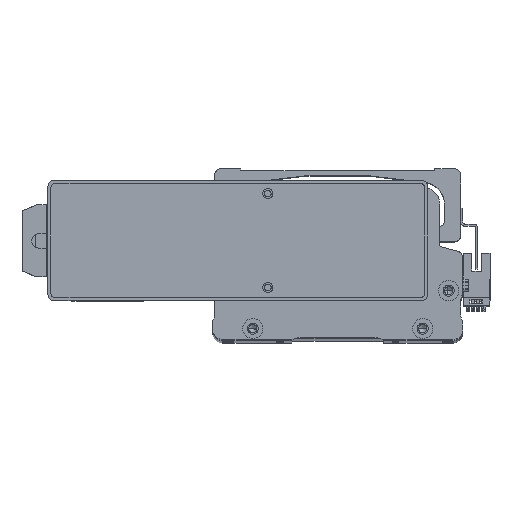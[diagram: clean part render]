
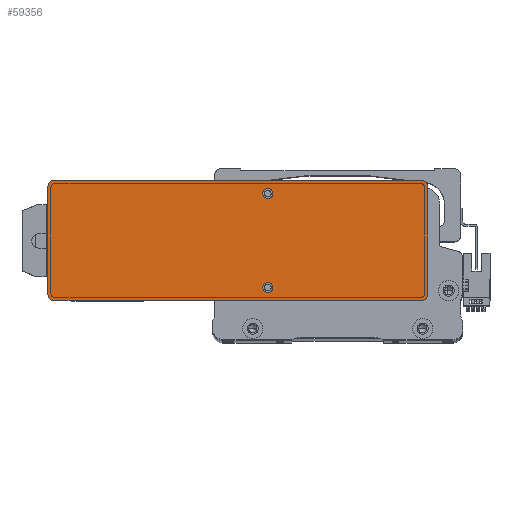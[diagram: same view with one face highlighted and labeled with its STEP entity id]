
A CAD part, top view. The second image highlights one B-rep face of the part: STEP entity #59356.
In plain terms, the highlighted planar face has unit normal (0, 0, 1) as drawn and (0, 0, -1) by its records, which use the part's own axes.
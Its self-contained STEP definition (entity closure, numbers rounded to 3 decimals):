
#429 = CARTESIAN_POINT ( 'NONE',  ( -15., 23.5, 0. ) ) ;
#1752 = AXIS2_PLACEMENT_3D ( 'NONE', #7303, #50166, #13496 ) ;
#2180 = VERTEX_POINT ( 'NONE', #21184 ) ;
#2582 = EDGE_CURVE ( 'NONE', #16229, #37938, #65734, .T. ) ;
#4451 = CARTESIAN_POINT ( 'NONE',  ( -17.5, -23.5, 0. ) ) ;
#4680 = DIRECTION ( 'NONE',  ( -1., 0., 0. ) ) ;
#5770 = DIRECTION ( 'NONE',  ( 1., 0., 0. ) ) ;
#6638 = DIRECTION ( 'NONE',  ( -1., 0., 0. ) ) ;
#7303 = CARTESIAN_POINT ( 'NONE',  ( -15., -23.5, 0. ) ) ;
#8822 = CARTESIAN_POINT ( 'NONE',  ( -15., 23.5, 0. ) ) ;
#9329 = FACE_BOUND ( 'NONE', #45843, .T. ) ;
#10024 = CIRCLE ( 'NONE', #67759, 2.5 ) ;
#10637 = ORIENTED_EDGE ( 'NONE', *, *, #2582, .F. ) ;
#11213 = AXIS2_PLACEMENT_3D ( 'NONE', #429, #43296, #6638 ) ;
#11800 = VECTOR ( 'NONE', #12594, 1000. ) ;
#12594 = DIRECTION ( 'NONE',  ( 1., 0., 0. ) ) ;
#12910 = AXIS2_PLACEMENT_3D ( 'NONE', #59677, #23131, #65813 ) ;
#13496 = DIRECTION ( 'NONE',  ( -1., 0., 0. ) ) ;
#13497 = LINE ( 'NONE', #54673, #29778 ) ;
#14343 = LINE ( 'NONE', #53406, #44977 ) ;
#14641 = ORIENTED_EDGE ( 'NONE', *, *, #54497, .F. ) ;
#15007 = DIRECTION ( 'NONE',  ( -1., 0., 0. ) ) ;
#16229 = VERTEX_POINT ( 'NONE', #40558 ) ;
#16615 = ORIENTED_EDGE ( 'NONE', *, *, #35330, .F. ) ;
#17841 = ORIENTED_EDGE ( 'NONE', *, *, #27391, .T. ) ;
#18080 = DIRECTION ( 'NONE',  ( 0., 1., 0. ) ) ;
#18769 = CARTESIAN_POINT ( 'NONE',  ( 92., 30., 0. ) ) ;
#18951 = ORIENTED_EDGE ( 'NONE', *, *, #58090, .F. ) ;
#20586 = CARTESIAN_POINT ( 'NONE',  ( -95., 27., 0. ) ) ;
#20751 = EDGE_CURVE ( 'NONE', #2180, #50854, #36554, .T. ) ;
#20913 = CARTESIAN_POINT ( 'NONE',  ( -92., 30., 0. ) ) ;
#21184 = CARTESIAN_POINT ( 'NONE',  ( -92., -30., 0. ) ) ;
#22489 = EDGE_CURVE ( 'NONE', #55104, #50854, #67085, .T. ) ;
#23131 = DIRECTION ( 'NONE',  ( 0., 0., -1. ) ) ;
#24219 = EDGE_CURVE ( 'NONE', #55104, #56156, #52667, .T. ) ;
#24927 = CARTESIAN_POINT ( 'NONE',  ( 95., -30., 0. ) ) ;
#25629 = FACE_OUTER_BOUND ( 'NONE', #39973, .T. ) ;
#25821 = AXIS2_PLACEMENT_3D ( 'NONE', #62499, #25942, #68619 ) ;
#25942 = DIRECTION ( 'NONE',  ( 0., 0., -1. ) ) ;
#26539 = AXIS2_PLACEMENT_3D ( 'NONE', #35965, #78608, #42080 ) ;
#27391 = EDGE_CURVE ( 'NONE', #78038, #35170, #76850, .T. ) ;
#28105 = ORIENTED_EDGE ( 'NONE', *, *, #52811, .T. ) ;
#29394 = VERTEX_POINT ( 'NONE', #4451 ) ;
#29550 = EDGE_LOOP ( 'NONE', ( #45559, #74360 ) ) ;
#29778 = VECTOR ( 'NONE', #18080, 1000. ) ;
#30040 = LINE ( 'NONE', #24927, #11800 ) ;
#31595 = CARTESIAN_POINT ( 'NONE',  ( 92., 27., 0. ) ) ;
#32264 = CARTESIAN_POINT ( 'NONE',  ( -12.5, -23.5, 0. ) ) ;
#32615 = CIRCLE ( 'NONE', #26539, 2.5 ) ;
#33960 = DIRECTION ( 'NONE',  ( 0., 0., 1. ) ) ;
#34538 = AXIS2_PLACEMENT_3D ( 'NONE', #58716, #33960, #64818 ) ;
#35170 = VERTEX_POINT ( 'NONE', #39579 ) ;
#35330 = EDGE_CURVE ( 'NONE', #78038, #56156, #14343, .T. ) ;
#35965 = CARTESIAN_POINT ( 'NONE',  ( -15., -23.5, 0. ) ) ;
#36554 = CIRCLE ( 'NONE', #48660, 3. ) ;
#36968 = VERTEX_POINT ( 'NONE', #68465 ) ;
#37757 = ORIENTED_EDGE ( 'NONE', *, *, #20751, .T. ) ;
#37772 = DIRECTION ( 'NONE',  ( 1., 0., 0. ) ) ;
#37938 = VERTEX_POINT ( 'NONE', #48109 ) ;
#39579 = CARTESIAN_POINT ( 'NONE',  ( 95., 27., 0. ) ) ;
#39973 = EDGE_LOOP ( 'NONE', ( #18951, #28105, #14641, #37757, #78787, #66336, #16615, #17841 ) ) ;
#40558 = CARTESIAN_POINT ( 'NONE',  ( -12.5, 23.5, 0. ) ) ;
#42080 = DIRECTION ( 'NONE',  ( -1., 0., 0. ) ) ;
#42453 = DIRECTION ( 'NONE',  ( 0., 0., -1. ) ) ;
#43296 = DIRECTION ( 'NONE',  ( 0., 0., -1. ) ) ;
#44977 = VECTOR ( 'NONE', #4680, 1000. ) ;
#45198 = CARTESIAN_POINT ( 'NONE',  ( 92., -30., 0. ) ) ;
#45559 = ORIENTED_EDGE ( 'NONE', *, *, #55846, .F. ) ;
#45843 = EDGE_LOOP ( 'NONE', ( #59750, #10637 ) ) ;
#47656 = EDGE_CURVE ( 'NONE', #55609, #29394, #56731, .T. ) ;
#48109 = CARTESIAN_POINT ( 'NONE',  ( -17.5, 23.5, 0. ) ) ;
#48660 = AXIS2_PLACEMENT_3D ( 'NONE', #78983, #42453, #5770 ) ;
#49240 = CARTESIAN_POINT ( 'NONE',  ( -95., -30., 0. ) ) ;
#50166 = DIRECTION ( 'NONE',  ( 0., 0., -1. ) ) ;
#50854 = VERTEX_POINT ( 'NONE', #63930 ) ;
#51696 = DIRECTION ( 'NONE',  ( 0., 0., -1. ) ) ;
#52652 = PLANE ( 'NONE',  #34538 ) ;
#52667 = CIRCLE ( 'NONE', #25821, 3. ) ;
#52811 = EDGE_CURVE ( 'NONE', #36968, #53625, #58052, .T. ) ;
#53406 = CARTESIAN_POINT ( 'NONE',  ( 95., 30., 0. ) ) ;
#53625 = VERTEX_POINT ( 'NONE', #45198 ) ;
#54497 = EDGE_CURVE ( 'NONE', #2180, #53625, #30040, .T. ) ;
#54673 = CARTESIAN_POINT ( 'NONE',  ( 95., -30., 0. ) ) ;
#55104 = VERTEX_POINT ( 'NONE', #20586 ) ;
#55609 = VERTEX_POINT ( 'NONE', #32264 ) ;
#55846 = EDGE_CURVE ( 'NONE', #29394, #55609, #32615, .T. ) ;
#56156 = VERTEX_POINT ( 'NONE', #20913 ) ;
#56731 = CIRCLE ( 'NONE', #1752, 2.5 ) ;
#58052 = CIRCLE ( 'NONE', #12910, 3. ) ;
#58090 = EDGE_CURVE ( 'NONE', #36968, #35170, #13497, .T. ) ;
#58716 = CARTESIAN_POINT ( 'NONE',  ( 0., 0., 0. ) ) ;
#59356 = ADVANCED_FACE ( 'NONE', ( #9329, #25629, #72392 ), #52652, .F. ) ;
#59677 = CARTESIAN_POINT ( 'NONE',  ( 92., -27., 0. ) ) ;
#59750 = ORIENTED_EDGE ( 'NONE', *, *, #60310, .F. ) ;
#60310 = EDGE_CURVE ( 'NONE', #37938, #16229, #10024, .T. ) ;
#62499 = CARTESIAN_POINT ( 'NONE',  ( -92., 27., 0. ) ) ;
#62852 = AXIS2_PLACEMENT_3D ( 'NONE', #31595, #74228, #37772 ) ;
#63930 = CARTESIAN_POINT ( 'NONE',  ( -95., -27., 0. ) ) ;
#64818 = DIRECTION ( 'NONE',  ( 1., 0., 0. ) ) ;
#65182 = VECTOR ( 'NONE', #73149, 1000. ) ;
#65734 = CIRCLE ( 'NONE', #11213, 2.5 ) ;
#65813 = DIRECTION ( 'NONE',  ( 1., 0., 0. ) ) ;
#66336 = ORIENTED_EDGE ( 'NONE', *, *, #24219, .T. ) ;
#67085 = LINE ( 'NONE', #49240, #65182 ) ;
#67759 = AXIS2_PLACEMENT_3D ( 'NONE', #8822, #51696, #15007 ) ;
#68465 = CARTESIAN_POINT ( 'NONE',  ( 95., -27., 0. ) ) ;
#68619 = DIRECTION ( 'NONE',  ( 1., 0., 0. ) ) ;
#72392 = FACE_BOUND ( 'NONE', #29550, .T. ) ;
#73149 = DIRECTION ( 'NONE',  ( 0., -1., 0. ) ) ;
#74228 = DIRECTION ( 'NONE',  ( 0., 0., -1. ) ) ;
#74360 = ORIENTED_EDGE ( 'NONE', *, *, #47656, .F. ) ;
#76850 = CIRCLE ( 'NONE', #62852, 3. ) ;
#78038 = VERTEX_POINT ( 'NONE', #18769 ) ;
#78608 = DIRECTION ( 'NONE',  ( 0., 0., -1. ) ) ;
#78787 = ORIENTED_EDGE ( 'NONE', *, *, #22489, .F. ) ;
#78983 = CARTESIAN_POINT ( 'NONE',  ( -92., -27., 0. ) ) ;
